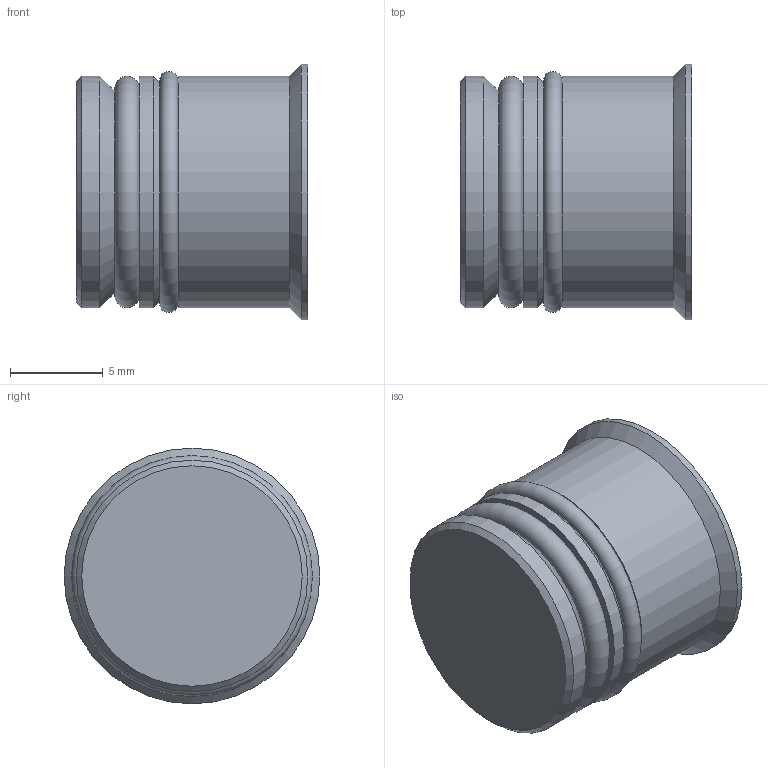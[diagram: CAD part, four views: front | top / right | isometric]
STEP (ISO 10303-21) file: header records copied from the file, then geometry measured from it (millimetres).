
FILE_DESCRIPTION( ( 'STEP AP214' ), '1' );
FILE_NAME( 'p:/temp/worker_103/temp/exporttempdir_3684_272_Qpqt3/format_0/TR-12.stp', '2021-02-08T19:21:26', ( 'License CC BY-ND 4.0' ), ( 'CADENAS' ), ' ', 'PARTsolutions', ' ' );
FILE_SCHEMA( ( 'AUTOMOTIVE_DESIGN { 1 0 10303 214 1 1 1 1 }' ) );
Length unit declared in the file: millimetre
Products named in the file (1): _TR-12
Bounding box: 12.5 x 13.8 x 13.8 mm (x, y, z)
Volume: 1428.2 mm3; surface area: 1040.2 mm2
Topology: 1 solids, 1 shells, 31 faces, 66 edges, 42 vertices
Faces by surface type: plane 19, cone 5, cylinder 5, torus 2
Full cylindrical faces by diameter (mm): 6 x1, 12.5 x3, 13.8 x1
Entity records: 1022 total; most frequent: DIRECTION 132, CARTESIAN_POINT 126, ORIENTED_EDGE 104, EDGE_CURVE 52, AXIS2_PLACEMENT_3D 48, EDGE_LOOP 48, VERTEX_POINT 42, FACE_OUTER_BOUND 38
